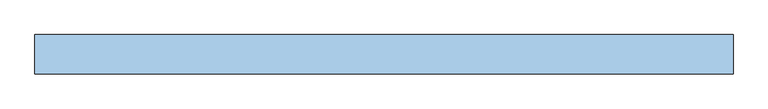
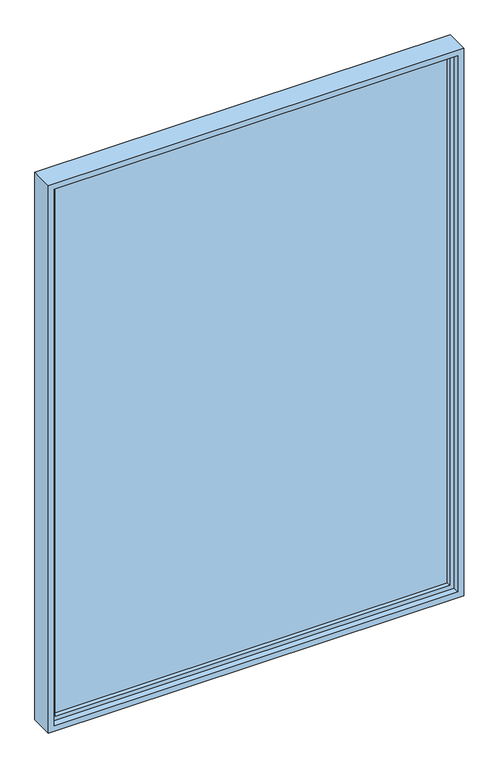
"""IFC4 building model written with IfcOpenShell, lengths in millimetres: window geometry, WD000-창 : WD000-창 2800x3900."""

import ifcopenshell
import ifcopenshell.guid

model = None  # the IFC model being written
_history = None  # IfcOwnerHistory: only IFC2X3 demands one
_inside = {}  # id of a spatial element -> (the spatial element, [elements in it])
_under = {}  # id of a project, library or spatial element -> (it, [spatial elements below it])
_declared = {}  # id of a project -> (the project, [libraries it declares])
_typed = {}  # id of a type object -> (the type object, [elements of that type])
_made_of = {}  # id of a material, layer set ... -> (it, [elements and type objects made of it])


def new_model(schema):
    """Start an empty IFC model of exactly this schema.

    Asked for "IFC4X3", IfcOpenShell would pick the latest addendum, in which some entities
    have other attributes; the version numbers below select the first issue.
    IFC2X3 requires an IfcOwnerHistory on every rooted entity: one is made here for all.
    """
    global model, _history
    if schema == "IFC4X3":
        model = ifcopenshell.file(schema_version=(4, 3, 0, 0))
    else:
        model = ifcopenshell.file(schema=schema)
    _inside.clear()
    _under.clear()
    _declared.clear()
    _typed.clear()
    _made_of.clear()
    _history = None
    if model.schema == "IFC2X3":
        org = make("IfcOrganization", Name="unknown")
        user = make(
            "IfcPersonAndOrganization",
            ThePerson=make("IfcPerson", FamilyName="unknown"),
            TheOrganization=org,
        )
        app = make(
            "IfcApplication",
            ApplicationDeveloper=org,
            Version="unknown",
            ApplicationFullName="unknown",
            ApplicationIdentifier="unknown",
        )
        _history = make(
            "IfcOwnerHistory",
            OwningUser=user,
            OwningApplication=app,
            ChangeAction="ADDED",
            CreationDate=0,
        )
    return model


def make(cls, **values):
    """One entity of the class cls with the attributes given. An attribute that is None is left unset."""
    return model.create_entity(
        cls, **{name: value for name, value in values.items() if value is not None}
    )


def rooted(cls, **values):
    """An entity with a GlobalId (a new one), such as an element, a storey or a relation."""
    return make(cls, GlobalId=ifcopenshell.guid.new(), OwnerHistory=_history, **values)


def si_unit(unit_type, name, prefix=None):
    """IfcSIUnit, for example si_unit("LENGTHUNIT", "METRE", prefix="MILLI")."""
    return make("IfcSIUnit", UnitType=unit_type, Prefix=prefix, Name=name)


def assignment(units):
    """IfcUnitAssignment: the units of a project."""
    return None if units is None else make("IfcUnitAssignment", Units=units)


def point(xyz):
    """IfcCartesianPoint."""
    return None if xyz is None else make("IfcCartesianPoint", Coordinates=xyz)


def direction(xyz):
    """IfcDirection."""
    return None if xyz is None else make("IfcDirection", DirectionRatios=xyz)


def frame(location, z_axis=None, x_axis=None):
    """IfcAxis2Placement3D, a coordinate frame: its origin and axes. An axis left out is left unset."""
    return make(
        "IfcAxis2Placement3D",
        Location=point(location),
        Axis=direction(z_axis),
        RefDirection=direction(x_axis),
    )


def origin():
    """The frame at (0, 0, 0) with its axes left unset."""
    return frame((0.0, 0.0, 0.0))


def place(relative_to, where):
    """IfcLocalPlacement: puts the frame where relative to a parent placement (None: the world)."""
    return make(
        "IfcLocalPlacement", PlacementRelTo=relative_to, RelativePlacement=where
    )


def context(
    kind, dimensions, precision=None, world=None, true_north=None, identifier=None
):
    """IfcGeometricRepresentationContext, for example the 3D "Model" context."""
    return make(
        "IfcGeometricRepresentationContext",
        ContextIdentifier=identifier,
        ContextType=kind,
        CoordinateSpaceDimension=dimensions,
        Precision=precision,
        WorldCoordinateSystem=world,
        TrueNorth=true_north,
    )


def project(units=None, contexts=None):
    """IfcProject with its units and contexts."""
    return rooted(
        "IfcProject",
        Name="project",
        RepresentationContexts=contexts,
        UnitsInContext=assignment(units),
    )


def spatial(cls, under=None, at=None, **own):
    """A site, building, storey or space (cls), placed at a placement, below another one or the project."""
    s = rooted(cls, ObjectPlacement=at, **own)
    if under is not None:
        _under.setdefault(under.id(), (under, []))[1].append(s)
    return s


def polyline(points):
    """IfcPolyline through the points."""
    return make("IfcPolyline", Points=[point(p) for p in points])


def outline(outer, holes=None, kind="AREA"):
    """IfcArbitraryClosedProfileDef: a profile drawn as a closed curve; with holes, ...WithVoids."""
    if holes is None:
        return make("IfcArbitraryClosedProfileDef", ProfileType=kind, OuterCurve=outer)
    return make(
        "IfcArbitraryProfileDefWithVoids",
        ProfileType=kind,
        OuterCurve=outer,
        InnerCurves=holes,
    )


def extrude(swept, where, along, depth):
    """IfcExtrudedAreaSolid: the profile swept, set in the frame where, extruded along a direction by depth."""
    return make(
        "IfcExtrudedAreaSolid",
        SweptArea=swept,
        Position=where,
        ExtrudedDirection=direction(along),
        Depth=depth,
    )


def shape(context_of_items, identifier, shape_type, items):
    """IfcShapeRepresentation: the items that make up one representation, for example the "Body"."""
    return make(
        "IfcShapeRepresentation",
        ContextOfItems=context_of_items,
        RepresentationIdentifier=identifier,
        RepresentationType=shape_type,
        Items=items,
    )


def source(mapping_origin, context_of_items, identifier, shape_type, items):
    """IfcRepresentationMap: a shape defined once, which mapped items show again and again."""
    return make(
        "IfcRepresentationMap",
        MappingOrigin=mapping_origin,
        MappedRepresentation=shape(context_of_items, identifier, shape_type, items),
    )


def transform(
    local_origin,
    x_axis=None,
    y_axis=None,
    z_axis=None,
    scale=None,
    scale2=None,
    scale3=None,
    uniform=True,
):
    """IfcCartesianTransformationOperator3D, or its non-uniform kind. x_axis, y_axis, z_axis: its Axis1, 2, 3."""
    if uniform:
        return make(
            "IfcCartesianTransformationOperator3D",
            Axis1=direction(x_axis),
            Axis2=direction(y_axis),
            LocalOrigin=point(local_origin),
            Scale=scale,
            Axis3=direction(z_axis),
        )
    return make(
        "IfcCartesianTransformationOperator3DnonUniform",
        Axis1=direction(x_axis),
        Axis2=direction(y_axis),
        LocalOrigin=point(local_origin),
        Scale=scale,
        Axis3=direction(z_axis),
        Scale2=scale2,
        Scale3=scale3,
    )


def mapped(mapping_source, mapping_target):
    """IfcMappedItem: shows the shape of a source again, moved by a transform."""
    return make(
        "IfcMappedItem", MappingSource=mapping_source, MappingTarget=mapping_target
    )


def made_of(thing, what):
    """Note that an element or type object is made of a material, layer set ...; save() writes the relation."""
    if what is not None:
        _made_of.setdefault(what.id(), (what, []))[1].append(thing)
    return thing


def element(
    cls,
    number,
    at=None,
    inside=None,
    cuts=None,
    type_object=None,
    material=None,
    context=None,
    identifier="Body",
    shape_type=None,
    held_by="IfcProductDefinitionShape",
    body=None,
    shapes=None,
    **own,
):
    """One element of the class cls, such as IfcWall. Its Tag is "e" and its number.

    at: its placement. inside: the storey or other place that contains it. cuts: it is an
    opening in that element (IfcRelVoidsElement). A single representation is given by context,
    identifier, shape_type and body (its items); several are given by shapes. held_by: the class
    of the entity that holds the representations. save() writes the other relations.
    """
    e = rooted(cls, Tag="e%d" % number, ObjectPlacement=at, **own)
    if body is not None:
        shapes = [shape(context, identifier, shape_type, body)]
    if shapes is not None:
        e.Representation = make(held_by, Representations=shapes)
    if inside is not None:
        _inside.setdefault(inside.id(), (inside, []))[1].append(e)
    if cuts is not None:
        rooted(
            "IfcRelVoidsElement", RelatingBuildingElement=cuts, RelatedOpeningElement=e
        )
    if type_object is not None:
        _typed.setdefault(type_object.id(), (type_object, []))[1].append(e)
    return made_of(e, material)


def aggregate(whole, parts):
    """IfcRelAggregates: a whole, such as a stair, and the parts it consists of."""
    return rooted("IfcRelAggregates", RelatingObject=whole, RelatedObjects=parts)


def save(model, path):
    """Write the relations noted so far, then the file.

    IfcRelAggregates (storeys below a building ...), IfcRelContainedInSpatialStructure (elements
    in a storey), IfcRelDefinesByType, IfcRelAssociatesMaterial and IfcRelDeclares: one each for
    every whole, place, type object, material and project.
    """
    for whole, parts in _under.values():
        aggregate(whole, parts)
    for where, things in _inside.values():
        rooted(
            "IfcRelContainedInSpatialStructure",
            RelatedElements=things,
            RelatingStructure=where,
        )
    for kind, things in _typed.values():
        rooted("IfcRelDefinesByType", RelatedObjects=things, RelatingType=kind)
    for what, things in _made_of.values():
        rooted("IfcRelAssociatesMaterial", RelatedObjects=things, RelatingMaterial=what)
    for by, libraries in _declared.values():
        rooted("IfcRelDeclares", RelatingContext=by, RelatedDefinitions=libraries)
    model.write(path)


def window_15473173(model_context):
    return source(origin(), model_context, "Body", "SweptSolid", [
        extrude(outline(polyline([(1330.0, 6.0), (1330.0, -6.0), (-1330.0, -6.0), (-1330.0, 6.0), (1330.0, 6.0)])), frame((0.0, 0.0, 870.0), z_axis=(0.0, 0.0, 1.0), x_axis=(1.0, 0.0, 0.0)), (0.0, 0.0, 1.0), 3760.0),
        extrude(outline(polyline([(4660.0, -1360.0), (840.0, -1360.0), (840.0, 1360.0), (4660.0, 1360.0), (4660.0, -1360.0)]), holes=[polyline([(4630.0, 1330.0), (870.0, 1330.0), (870.0, -1330.0), (4630.0, -1330.0), (4630.0, 1330.0)])]), frame((0.0, -35.0, 0.0), z_axis=(0.0, 1.0, 0.0), x_axis=(0.0, 0.0, 1.0)), (0.0, 0.0, 1.0), 70.0),
        extrude(outline(polyline([(4700.0, 1400.0), (4700.0, -1400.0), (800.0, -1400.0), (800.0, 1400.0), (4700.0, 1400.0)]), holes=[polyline([(4660.0, 1360.0), (840.0, 1360.0), (840.0, -1360.0), (4660.0, -1360.0), (4660.0, 1360.0)])]), frame((0.0, -78.6430223, 0.0), z_axis=(0.0, 1.0, 0.0), x_axis=(0.0, 0.0, 1.0)), (0.0, 0.0, 1.0), 157.2860446),
    ])


if __name__ == "__main__":
    model = new_model("IFC4")
    model_context = context("Model", 3, world=origin())
    ifc_project = project(units=[si_unit("LENGTHUNIT", "METRE", prefix="MILLI")], contexts=[model_context])
    site = spatial("IfcSite", under=ifc_project)
    building = spatial("IfcBuilding", under=site)
    placement = place(None, origin())
    window_shape = window_15473173(model_context)
    element("IfcWindow", 1, ObjectType="WD000-창 : WD000-창 2800x3900", at=placement, inside=building, context=model_context, shape_type="MappedRepresentation", body=[
        mapped(window_shape, transform((0.0, 0.0, 0.0), x_axis=(1.0, 0.0, 0.0), y_axis=(0.0, 1.0, 0.0), z_axis=(0.0, 0.0, 1.0))),
    ])
    save(model, "model.ifc")
